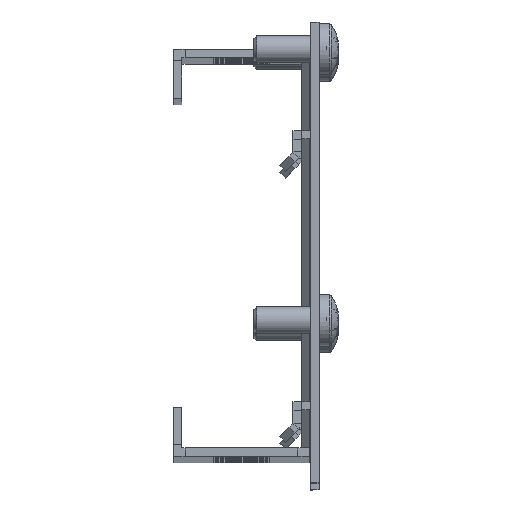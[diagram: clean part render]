
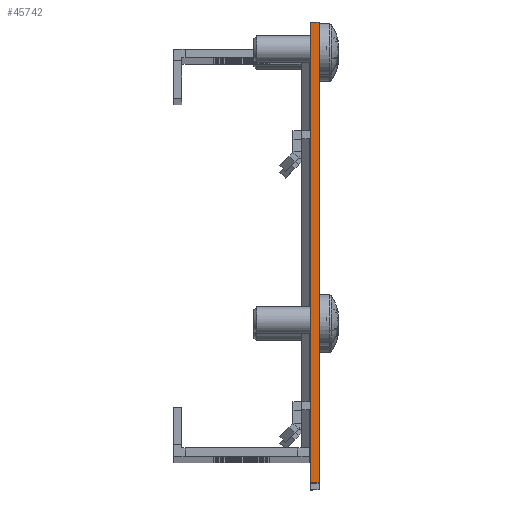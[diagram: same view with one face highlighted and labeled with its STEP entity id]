
A CAD part, top view. The second image highlights one B-rep face of the part: STEP entity #45742.
In plain terms, the highlighted planar face has unit normal (0, 0, 1) as drawn and (-1, 0, 0) by its records, which use the part's own axes.
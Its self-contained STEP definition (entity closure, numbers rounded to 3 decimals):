
#45077 = VERTEX_POINT('',#45078);
#45078 = CARTESIAN_POINT('',(-375.022,42.5,1.802));
#45084 = EDGE_CURVE('',#45077,#45085,#45087,.T.);
#45085 = VERTEX_POINT('',#45086);
#45086 = CARTESIAN_POINT('',(-375.022,-42.5,1.802));
#45087 = LINE('',#45088,#45089);
#45088 = CARTESIAN_POINT('',(-375.022,0.,
    1.802));
#45089 = VECTOR('',#45090,1.);
#45090 = DIRECTION('',(0.,-1.,0.));
#45315 = VERTEX_POINT('',#45316);
#45316 = CARTESIAN_POINT('',(-375.022,-42.5,0.302));
#45322 = EDGE_CURVE('',#45323,#45315,#45325,.T.);
#45323 = VERTEX_POINT('',#45324);
#45324 = CARTESIAN_POINT('',(-375.022,42.5,0.302));
#45325 = LINE('',#45326,#45327);
#45326 = CARTESIAN_POINT('',(-375.022,-36.,0.302));
#45327 = VECTOR('',#45328,1.);
#45328 = DIRECTION('',(-0.,-1.,0.));
#45742 = ADVANCED_FACE('',(#45743),#45759,.F.);
#45743 = FACE_BOUND('',#45744,.T.);
#45744 = EDGE_LOOP('',(#45745,#45746,#45752,#45753));
#45745 = ORIENTED_EDGE('',*,*,#45322,.T.);
#45746 = ORIENTED_EDGE('',*,*,#45747,.T.);
#45747 = EDGE_CURVE('',#45315,#45085,#45748,.T.);
#45748 = LINE('',#45749,#45750);
#45749 = CARTESIAN_POINT('',(-375.022,-42.5,0.302));
#45750 = VECTOR('',#45751,1.);
#45751 = DIRECTION('',(0.,0.,1.));
#45752 = ORIENTED_EDGE('',*,*,#45084,.F.);
#45753 = ORIENTED_EDGE('',*,*,#45754,.F.);
#45754 = EDGE_CURVE('',#45323,#45077,#45755,.T.);
#45755 = LINE('',#45756,#45757);
#45756 = CARTESIAN_POINT('',(-375.022,42.5,1.802));
#45757 = VECTOR('',#45758,1.);
#45758 = DIRECTION('',(0.,0.,1.));
#45759 = PLANE('',#45760);
#45760 = AXIS2_PLACEMENT_3D('',#45761,#45762,#45763);
#45761 = CARTESIAN_POINT('',(-375.022,-36.,1.802));
#45762 = DIRECTION('',(1.,0.,0.));
#45763 = DIRECTION('',(0.,0.,-1.));
